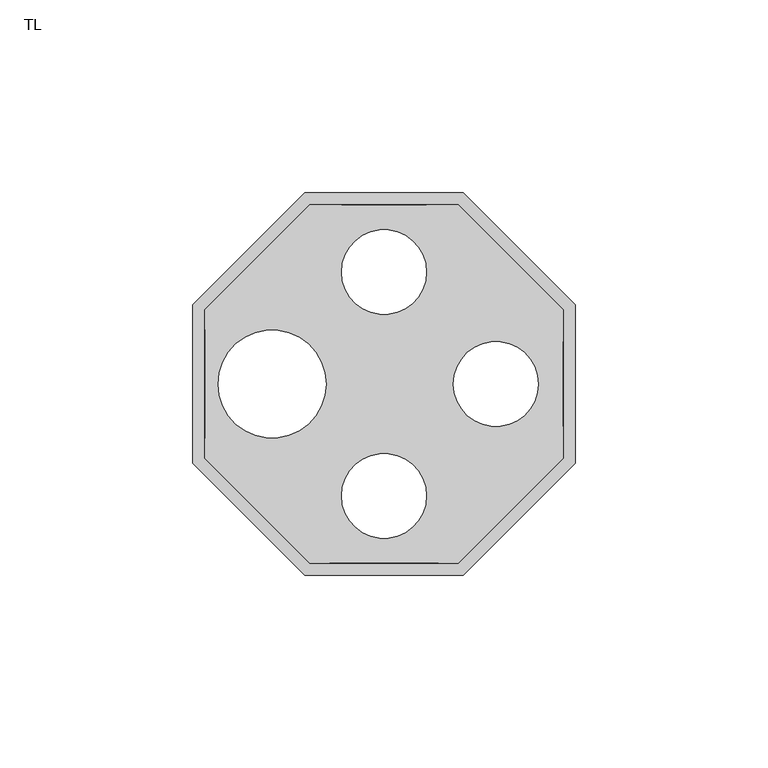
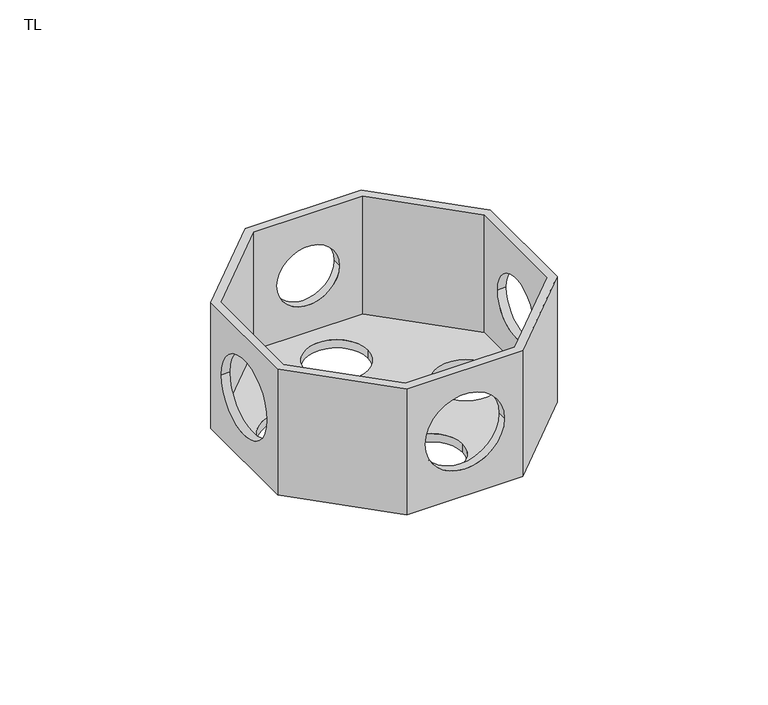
"""IFC4 building model written with IfcOpenShell, lengths in millimetres: cable carrier fitting geometry, PavcoWavin_ConduitFittings_CajaOctagonal_Multipuerto : TL."""

from ifc_helpers import new_model, si_unit, frame, origin, place, context, project, spatial, polyline, circle_curve, source, transform, mapped, element, save
from ifc_brep_helpers import plane_surface, revolved_surface, advanced_brep


def tl_a7b347dc(model_context):
    return source(origin(), model_context, "Body", "AdvancedBrep", [
        advanced_brep(
        [(-49.5, 20.5035713, 23.02), (-49.5, -20.5035713, 23.02), (-20.5035713, -49.5, 23.02), (20.5035713, -49.5, 23.02), (49.5, -20.5035713, 23.02), (49.5, 20.5035713, 23.02), (20.5035713, 49.5, 23.02), (-20.5035713, 49.5, 23.02), (-46.5, -19.2609307, 23.02), (-46.5, 19.2609307, 23.02), (-19.2609307, 46.5, 23.02), (19.2609307, 46.5, 23.02), (46.5, 19.2609307, 23.02), (46.5, -19.2609307, 23.02), (19.2609307, -46.5, 23.02), (-19.2609307, -46.5, 23.02), (-49.5, 20.5035713, -23.98), (-20.5035713, 49.5, -23.98), (20.5035713, 49.5, -23.98), (49.5, 20.5035713, -23.98), (49.5, -20.5035713, -23.98), (20.5035713, -49.5, -23.98), (-20.5035713, -49.5, -23.98), (-49.5, -20.5035713, -23.98), (-43.0, 0.0, -23.98), (-15.0, 0.0, -23.98), (18.0, 0.0, -23.98), (40.0, 0.0, -23.98), (-11.0, 29.0, -23.98), (11.0, 29.0, -23.98), (-11.0, -29.0, -23.98), (11.0, -29.0, -23.98), (-46.5, 19.2609307, -20.98), (-46.5, -19.2609307, -20.98), (-19.2609307, -46.5, -20.98), (19.2609307, -46.5, -20.98), (46.5, -19.2609307, -20.98), (46.5, 19.2609307, -20.98), (19.2609307, 46.5, -20.98), (-19.2609307, 46.5, -20.98), (-43.0, 0.0, -20.98), (-15.0, 0.0, -20.98), (18.0, 0.0, -20.98), (40.0, 0.0, -20.98), (-11.0, -29.0, -20.98), (11.0, -29.0, -20.98), (-11.0, 29.0, -20.98), (11.0, 29.0, -20.98), (14.0, -49.5, 0.0), (14.0, -46.5, 0.0), (-14.0, -46.5, 0.0), (-14.0, -49.5, 0.0), (-49.5, -14.0, 0.0), (-49.5, 14.0, 0.0), (49.5, 11.0, 0.0), (49.5, -11.0, 0.0), (-11.0, 49.5, 0.0), (11.0, 49.5, 0.0), (-46.5, 14.0, 0.0), (-46.5, -14.0, 0.0), (46.5, -11.0, 0.0), (46.5, 11.0, 0.0), (11.0, 46.5, 0.0), (-11.0, 46.5, 0.0)],
        [
            (0, 1),
            (1, 2),
            (2, 3),
            (3, 4),
            (4, 5),
            (5, 6),
            (6, 7),
            (7, 0),
            (8, 9),
            (9, 10),
            (10, 11),
            (11, 12),
            (12, 13),
            (13, 14),
            (14, 15),
            (15, 8),
            (16, 17),
            (17, 18),
            (18, 19),
            (19, 20),
            (20, 21),
            (21, 22),
            (22, 23),
            (23, 16),
            (24, 25, circle_curve(frame((-29.0, 0.0, -23.98), z_axis=(0.0, 0.0, 1.0), x_axis=(1.0, 0.0, 0.0)), 14.0)),
            (25, 24, circle_curve(frame((-29.0, 0.0, -23.98), z_axis=(0.0, 0.0, 1.0), x_axis=(1.0, 0.0, 0.0)), 14.0)),
            (26, 27, circle_curve(frame((29.0, 0.0, -23.98), z_axis=(0.0, 0.0, 1.0), x_axis=(1.0, 0.0, 0.0)), 11.0)),
            (27, 26, circle_curve(frame((29.0, 0.0, -23.98), z_axis=(0.0, 0.0, 1.0), x_axis=(1.0, 0.0, 0.0)), 11.0)),
            (28, 29, circle_curve(frame((0.0, 29.0, -23.98), z_axis=(0.0, 0.0, 1.0), x_axis=(1.0, 0.0, 0.0)), 11.0)),
            (29, 28, circle_curve(frame((0.0, 29.0, -23.98), z_axis=(0.0, 0.0, 1.0), x_axis=(1.0, 0.0, 0.0)), 11.0)),
            (30, 31, circle_curve(frame((0.0, -29.0, -23.98), z_axis=(0.0, 0.0, 1.0), x_axis=(1.0, 0.0, 0.0)), 11.0)),
            (31, 30, circle_curve(frame((0.0, -29.0, -23.98), z_axis=(0.0, 0.0, 1.0), x_axis=(1.0, 0.0, 0.0)), 11.0)),
            (32, 33),
            (33, 34),
            (34, 35),
            (35, 36),
            (36, 37),
            (37, 38),
            (38, 39),
            (39, 32),
            (40, 41, circle_curve(frame((-29.0, 0.0, -20.98), z_axis=(0.0, 0.0, -1.0), x_axis=(1.0, 0.0, 0.0)), 14.0)),
            (41, 40, circle_curve(frame((-29.0, 0.0, -20.98), z_axis=(0.0, 0.0, -1.0), x_axis=(1.0, 0.0, 0.0)), 14.0)),
            (42, 43, circle_curve(frame((29.0, 0.0, -20.98), z_axis=(0.0, 0.0, -1.0), x_axis=(1.0, 0.0, 0.0)), 11.0)),
            (43, 42, circle_curve(frame((29.0, 0.0, -20.98), z_axis=(0.0, 0.0, -1.0), x_axis=(1.0, 0.0, 0.0)), 11.0)),
            (44, 45, circle_curve(frame((0.0, -29.0, -20.98), z_axis=(0.0, 0.0, -1.0), x_axis=(1.0, 0.0, 0.0)), 11.0)),
            (45, 44, circle_curve(frame((0.0, -29.0, -20.98), z_axis=(0.0, 0.0, -1.0), x_axis=(1.0, 0.0, 0.0)), 11.0)),
            (46, 47, circle_curve(frame((0.0, 29.0, -20.98), z_axis=(0.0, 0.0, -1.0), x_axis=(1.0, 0.0, 0.0)), 11.0)),
            (47, 46, circle_curve(frame((0.0, 29.0, -20.98), z_axis=(0.0, 0.0, -1.0), x_axis=(1.0, 0.0, 0.0)), 11.0)),
            (25, 41),
            (40, 24),
            (27, 43),
            (42, 26),
            (48, 49),
            (49, 50, circle_curve(frame((0.0, -46.5, 0.0), z_axis=(0.0, 1.0, 0.0), x_axis=(1.0, 0.0, 0.0)), 14.0)),
            (50, 51),
            (51, 48, circle_curve(frame((0.0, -49.5, 0.0), z_axis=(0.0, -1.0, 0.0), x_axis=(1.0, 0.0, 0.0)), 14.0)),
            (48, 51, circle_curve(frame((0.0, -49.5, 0.0), z_axis=(0.0, -1.0, 0.0), x_axis=(1.0, 0.0, 0.0)), 14.0)),
            (50, 49, circle_curve(frame((0.0, -46.5, 0.0), z_axis=(0.0, 1.0, 0.0), x_axis=(1.0, 0.0, 0.0)), 14.0)),
            (0, 16),
            (23, 1),
            (52, 53, circle_curve(frame((-49.5, 0.0, 0.0), z_axis=(1.0, 0.0, 0.0), x_axis=(0.0, 1.0, 0.0)), 14.0)),
            (53, 52, circle_curve(frame((-49.5, 0.0, 0.0), z_axis=(1.0, 0.0, 0.0), x_axis=(0.0, 1.0, 0.0)), 14.0)),
            (22, 2),
            (21, 3),
            (20, 4),
            (19, 5),
            (54, 55, circle_curve(frame((49.5, 0.0, 0.0), z_axis=(-1.0, 0.0, 0.0), x_axis=(0.0, 1.0, 0.0)), 11.0)),
            (55, 54, circle_curve(frame((49.5, 0.0, 0.0), z_axis=(-1.0, 0.0, 0.0), x_axis=(0.0, 1.0, 0.0)), 11.0)),
            (18, 6),
            (17, 7),
            (56, 57, circle_curve(frame((0.0, 49.5, 0.0), z_axis=(0.0, -1.0, 0.0), x_axis=(1.0, 0.0, 0.0)), 11.0)),
            (57, 56, circle_curve(frame((0.0, 49.5, 0.0), z_axis=(0.0, -1.0, 0.0), x_axis=(1.0, 0.0, 0.0)), 11.0)),
            (29, 47),
            (46, 28),
            (31, 45),
            (44, 30),
            (32, 9),
            (8, 33),
            (58, 59, circle_curve(frame((-46.5, 0.0, 0.0), z_axis=(-1.0, 0.0, 0.0), x_axis=(0.0, 1.0, 0.0)), 14.0)),
            (59, 58, circle_curve(frame((-46.5, 0.0, 0.0), z_axis=(-1.0, 0.0, 0.0), x_axis=(0.0, 1.0, 0.0)), 14.0)),
            (15, 34),
            (14, 35),
            (13, 36),
            (12, 37),
            (60, 61, circle_curve(frame((46.5, 0.0, 0.0), z_axis=(1.0, 0.0, 0.0), x_axis=(0.0, 1.0, 0.0)), 11.0)),
            (61, 60, circle_curve(frame((46.5, 0.0, 0.0), z_axis=(1.0, 0.0, 0.0), x_axis=(0.0, 1.0, 0.0)), 11.0)),
            (11, 38),
            (10, 39),
            (62, 63, circle_curve(frame((0.0, 46.5, 0.0), z_axis=(0.0, 1.0, 0.0), x_axis=(1.0, 0.0, 0.0)), 11.0)),
            (63, 62, circle_curve(frame((0.0, 46.5, 0.0), z_axis=(0.0, 1.0, 0.0), x_axis=(1.0, 0.0, 0.0)), 11.0)),
            (54, 61),
            (60, 55),
            (62, 57),
            (56, 63),
            (58, 53),
            (52, 59),
        ],
        [
            plane_surface(frame((-15.0, 0.0, 23.02), z_axis=(0.0, 0.0, 1.0), x_axis=(0.0, -1.0, 0.0))),
            plane_surface(frame((-15.0, 0.0, -23.98), z_axis=(0.0, 0.0, -1.0), x_axis=(0.0, 1.0, 0.0))),
            plane_surface(frame((-46.5, 19.2609307, -20.98), z_axis=(0.0, 0.0, 1.0), x_axis=(0.0, 1.0, 0.0))),
            revolved_surface(polyline([(-15.0, 0.0, -23.98), (-15.0, 0.0, -20.98)]), (-29.0, 0.0, -23.98), (0.0, 0.0, -1.0)),
            revolved_surface(polyline([(40.0, 0.0, -23.98), (40.0, 0.0, -20.98)]), (29.0, 0.0, 0.0), (0.0, 0.0, -1.0)),
            revolved_surface(polyline([(14.0, -49.5, 0.0), (14.0, -46.5, 0.0)]), (0.0, -46.5, 0.0), (0.0, -1.0, 0.0)),
            plane_surface(frame((-49.5, 20.5035713, 23.02), z_axis=(-1.0, 0.0, 0.0), x_axis=(0.0, 0.0, -1.0))),
            plane_surface(frame((-49.5, -20.5035713, 23.02), z_axis=(-0.7071067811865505, -0.7071067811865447, 0.0), x_axis=(0.0, 0.0, -1.0))),
            plane_surface(frame((-20.5035713, -49.5, 23.02), z_axis=(0.0, -1.0, 0.0), x_axis=(0.0, 0.0, -1.0))),
            plane_surface(frame((20.5035713, -49.5, 23.02), z_axis=(0.7071067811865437, -0.7071067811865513, 0.0), x_axis=(0.0, 0.0, -1.0))),
            plane_surface(frame((49.5, -20.5035713, 23.02), z_axis=(1.0, 0.0, 0.0), x_axis=(0.0, 0.0, -1.0))),
            plane_surface(frame((49.5, 20.5035713, 23.02), z_axis=(0.7071067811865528, 0.7071067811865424, 0.0), x_axis=(0.0, 0.0, -1.0))),
            plane_surface(frame((20.5035713, 49.5, 23.02), z_axis=(0.0, 1.0, 0.0), x_axis=(0.0, 0.0, -1.0))),
            plane_surface(frame((-20.5035713, 49.5, 23.02), z_axis=(-0.7071067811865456, 0.7071067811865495, 0.0), x_axis=(0.0, 0.0, -1.0))),
            revolved_surface(polyline([(11.0, 29.0, -23.98), (11.0, 29.0, -20.98)]), (0.0, 29.0, 0.0), (0.0, 0.0, -1.0)),
            revolved_surface(polyline([(11.0, -29.0, -23.98), (11.0, -29.0, -20.98)]), (0.0, -29.0, 0.0), (0.0, 0.0, -1.0)),
            plane_surface(frame((-46.5, 19.2609307, 23.02), z_axis=(1.0, 0.0, 0.0), x_axis=(0.0, 0.0, -1.0))),
            plane_surface(frame((-46.5, -19.2609307, 23.02), z_axis=(0.7071067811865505, 0.7071067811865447, 0.0), x_axis=(0.0, 0.0, -1.0))),
            plane_surface(frame((-19.2609307, -46.5, 23.02), z_axis=(0.0, 1.0, 0.0), x_axis=(0.0, 0.0, -1.0))),
            plane_surface(frame((19.2609307, -46.5, 23.02), z_axis=(-0.7071067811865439, 0.7071067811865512, 0.0), x_axis=(0.0, 0.0, -1.0))),
            plane_surface(frame((46.5, -19.2609307, 23.02), z_axis=(-1.0, 0.0, 0.0), x_axis=(0.0, 0.0, -1.0))),
            plane_surface(frame((46.5, 19.2609307, 23.02), z_axis=(-0.7071067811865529, -0.7071067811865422, 0.0), x_axis=(0.0, 0.0, -1.0))),
            plane_surface(frame((19.2609307, 46.5, 23.02), z_axis=(0.0, -1.0, 0.0), x_axis=(0.0, 0.0, -1.0))),
            plane_surface(frame((-19.2609307, 46.5, 23.02), z_axis=(0.7071067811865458, -0.7071067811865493, 0.0), x_axis=(0.0, 0.0, -1.0))),
            revolved_surface(polyline([(49.5, 11.0, 0.0), (46.5, 11.0, 0.0)]), (46.5, 0.0, 0.0), (1.0, 0.0, 0.0)),
            revolved_surface(polyline([(11.0, 46.5, 0.0), (11.0, 49.5, 0.0)]), (0.0, 49.5, 0.0), (0.0, -1.0, 0.0)),
            revolved_surface(polyline([(-46.5, 14.0, 0.0), (-49.5, 14.0, 0.0)]), (-49.5, 0.0, 0.0), (1.0, 0.0, 0.0)),
        ],
        [
            (0, [[1, 2, 3, 4, 5, 6, 7, 8], [9, 10, 11, 12, 13, 14, 15, 16]]),
            (1, [[17, 18, 19, 20, 21, 22, 23, 24], [25, 26], [27, 28], [29, 30], [31, 32]]),
            (2, [[33, 34, 35, 36, 37, 38, 39, 40], [41, 42], [43, 44], [45, 46], [47, 48]]),
            (3, [[-26, 49, -41, 50]]),
            (3, [[-25, -50, -42, -49]]),
            (4, [[-28, 51, -43, 52]]),
            (4, [[-27, -52, -44, -51]]),
            (5, [[53, 54, 55, 56]]),
            (5, [[-53, 57, -55, 58]]),
            (6, [[-1, 59, -24, 60], [61, 62]]),
            (7, [[-2, -60, -23, 63]]),
            (8, [[-3, -63, -22, 64], [-56, -57]]),
            (9, [[-4, -64, -21, 65]]),
            (10, [[-5, -65, -20, 66], [67, 68]]),
            (11, [[-6, -66, -19, 69]]),
            (12, [[-7, -69, -18, 70], [71, 72]]),
            (13, [[-8, -70, -17, -59]]),
            (14, [[-30, 73, -47, 74]]),
            (14, [[-29, -74, -48, -73]]),
            (15, [[-32, 75, -45, 76]]),
            (15, [[-31, -76, -46, -75]]),
            (16, [[-33, 77, -9, 78], [79, 80]]),
            (17, [[-34, -78, -16, 81]]),
            (18, [[-35, -81, -15, 82], [-54, -58]]),
            (19, [[-36, -82, -14, 83]]),
            (20, [[-37, -83, -13, 84], [85, 86]]),
            (21, [[-38, -84, -12, 87]]),
            (22, [[-39, -87, -11, 88], [89, 90]]),
            (23, [[-40, -88, -10, -77]]),
            (24, [[91, -85, 92, -67]]),
            (24, [[-91, -68, -92, -86]]),
            (25, [[93, -71, 94, -89]]),
            (25, [[-93, -90, -94, -72]]),
            (26, [[95, -61, 96, -79]]),
            (26, [[-95, -80, -96, -62]]),
        ],
    ),
    ])


if __name__ == "__main__":
    model = new_model("IFC4")
    model_context = context("Model", 3, world=origin())
    ifc_project = project(units=[si_unit("LENGTHUNIT", "METRE", prefix="MILLI")], contexts=[model_context])
    site = spatial("IfcSite", under=ifc_project)
    building = spatial("IfcBuilding", under=site)
    placement = place(None, origin())
    tl_shape = tl_a7b347dc(model_context)
    element("IfcCableCarrierFitting", 1, ObjectType="PavcoWavin_ConduitFittings_CajaOctagonal_Multipuerto : TL", at=placement, inside=building, context=model_context, shape_type="MappedRepresentation", body=[
        mapped(tl_shape, transform((0.0, 0.0, 0.0), x_axis=(1.0, 0.0, 0.0), y_axis=(0.0, 1.0, 0.0), z_axis=(0.0, 0.0, 1.0))),
    ])
    save(model, "model.ifc")
